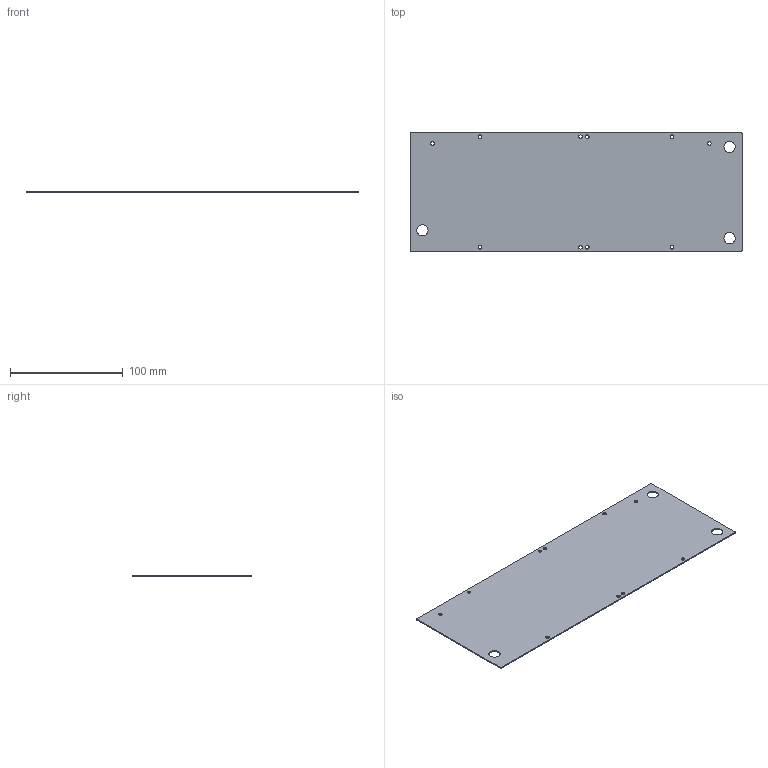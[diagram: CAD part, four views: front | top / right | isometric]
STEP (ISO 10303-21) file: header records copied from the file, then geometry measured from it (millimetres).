
FILE_DESCRIPTION(('FreeCAD Model'),'2;1');
FILE_NAME('Open CASCADE Shape Model','2021-12-19T00:38:20',('Author'),( ''),'Open CASCADE STEP processor 7.4','FreeCAD','Unknown');
FILE_SCHEMA(('AUTOMOTIVE_DESIGN { 1 0 10303 214 1 1 1 1 }'));
Length unit declared in the file: millimetre
Products named in the file (1): Unfold001
Bounding box: 294.4 x 106 x 1 mm (x, y, z)
Volume: 30889.3 mm3; surface area: 62772.5 mm2
Topology: 1 solids, 1 shells, 23 faces, 63 edges, 42 vertices
Faces by surface type: cylinder 17, plane 6
Full cylindrical faces by diameter (mm): 3.2 x10, 10 x3
Entity records: 1695 total; most frequent: CARTESIAN_POINT 357, DIRECTION 254, ORIENTED_EDGE 126, PCURVE 126, DEFINITIONAL_REPRESENTATION 126, LINE 121, VECTOR 121, EDGE_CURVE 63
